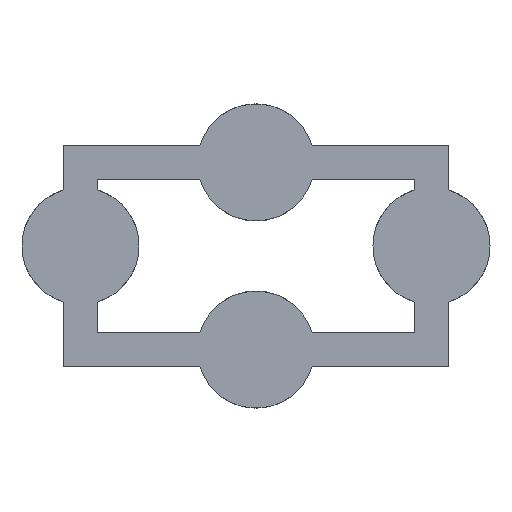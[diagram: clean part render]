
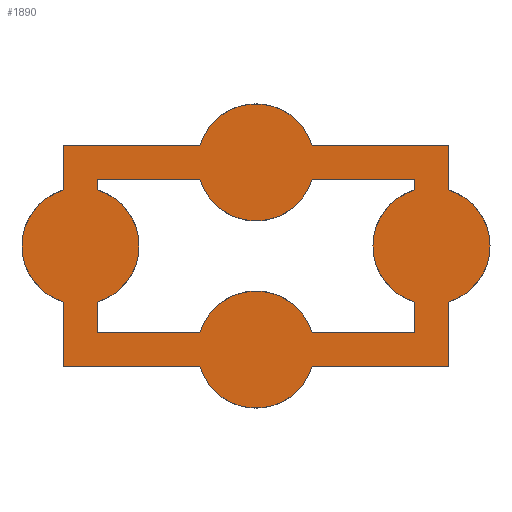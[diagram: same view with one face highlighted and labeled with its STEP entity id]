
A CAD part, front view. The second image highlights one B-rep face of the part: STEP entity #1890.
In plain terms, the highlighted planar face has unit normal (0, -1, 0).
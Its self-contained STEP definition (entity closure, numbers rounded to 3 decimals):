
#1=CARTESIAN_POINT('',(10.5,0.,0.));
#2=DIRECTION('',(0.,1.,0.));
#3=DIRECTION('',(-1.,0.,0.));
#4=AXIS2_PLACEMENT_3D('',#1,#2,#3);
#6=DIRECTION('',(0.,0.,1.));
#7=VECTOR('',#6,0.646);
#8=CARTESIAN_POINT('',(9.5,0.,3.354));
#9=LINE('',#8,#7);
#10=DIRECTION('',(-1.,0.,0.));
#11=VECTOR('',#10,6.146);
#12=CARTESIAN_POINT('',(9.5,0.,4.));
#13=LINE('',#12,#11);
#14=CARTESIAN_POINT('',(0.,0.,5.));
#15=DIRECTION('',(0.,1.,0.));
#16=DIRECTION('',(0.958,0.,-0.286));
#17=AXIS2_PLACEMENT_3D('',#14,#15,#16);
#19=DIRECTION('',(-1.,0.,0.));
#20=VECTOR('',#19,6.146);
#21=CARTESIAN_POINT('',(-3.354,0.,4.));
#22=LINE('',#21,#20);
#23=DIRECTION('',(0.,0.,-1.));
#24=VECTOR('',#23,0.646);
#25=CARTESIAN_POINT('',(-9.5,0.,4.));
#26=LINE('',#25,#24);
#27=CARTESIAN_POINT('',(-10.5,0.,0.));
#28=DIRECTION('',(0.,1.,0.));
#29=DIRECTION('',(0.286,0.,0.958));
#30=AXIS2_PLACEMENT_3D('',#27,#28,#29);
#32=CARTESIAN_POINT('',(-10.5,0.,0.));
#33=DIRECTION('',(0.,1.,0.));
#34=DIRECTION('',(1.,0.,0.));
#35=AXIS2_PLACEMENT_3D('',#32,#33,#34);
#37=DIRECTION('',(0.,0.,-1.));
#38=VECTOR('',#37,1.846);
#39=CARTESIAN_POINT('',(-9.5,0.,-3.354));
#40=LINE('',#39,#38);
#41=DIRECTION('',(1.,0.,0.));
#42=VECTOR('',#41,6.146);
#43=CARTESIAN_POINT('',(-9.5,0.,-5.2));
#44=LINE('',#43,#42);
#45=CARTESIAN_POINT('',(0.,0.,-6.2));
#46=DIRECTION('',(0.,1.,0.));
#47=DIRECTION('',(-0.958,0.,0.286));
#48=AXIS2_PLACEMENT_3D('',#45,#46,#47);
#50=DIRECTION('',(1.,0.,0.));
#51=VECTOR('',#50,6.146);
#52=CARTESIAN_POINT('',(3.354,0.,-5.2));
#53=LINE('',#52,#51);
#54=DIRECTION('',(0.,0.,1.));
#55=VECTOR('',#54,1.846);
#56=CARTESIAN_POINT('',(9.5,0.,-5.2));
#57=LINE('',#56,#55);
#58=CARTESIAN_POINT('',(10.5,0.,0.));
#59=DIRECTION('',(0.,1.,0.));
#60=DIRECTION('',(-0.286,0.,-0.958));
#61=AXIS2_PLACEMENT_3D('',#58,#59,#60);
#63=CARTESIAN_POINT('',(0.,0.,5.));
#64=DIRECTION('',(0.,1.,0.));
#65=DIRECTION('',(-0.958,0.,0.286));
#66=AXIS2_PLACEMENT_3D('',#63,#64,#65);
#68=DIRECTION('',(1.,0.,0.));
#69=VECTOR('',#68,8.146);
#70=CARTESIAN_POINT('',(3.354,0.,6.));
#71=LINE('',#70,#69);
#72=DIRECTION('',(0.,0.,-1.));
#73=VECTOR('',#72,2.646);
#74=CARTESIAN_POINT('',(11.5,0.,6.));
#75=LINE('',#74,#73);
#76=CARTESIAN_POINT('',(10.5,0.,0.));
#77=DIRECTION('',(0.,1.,0.));
#78=DIRECTION('',(0.286,0.,0.958));
#79=AXIS2_PLACEMENT_3D('',#76,#77,#78);
#81=CARTESIAN_POINT('',(10.5,0.,0.));
#82=DIRECTION('',(0.,1.,0.));
#83=DIRECTION('',(1.,0.,0.));
#84=AXIS2_PLACEMENT_3D('',#81,#82,#83);
#86=DIRECTION('',(0.,0.,-1.));
#87=VECTOR('',#86,3.846);
#88=CARTESIAN_POINT('',(11.5,0.,-3.354));
#89=LINE('',#88,#87);
#90=DIRECTION('',(-1.,0.,0.));
#91=VECTOR('',#90,8.146);
#92=CARTESIAN_POINT('',(11.5,0.,-7.2));
#93=LINE('',#92,#91);
#94=CARTESIAN_POINT('',(0.,0.,-6.2));
#95=DIRECTION('',(0.,1.,0.));
#96=DIRECTION('',(0.958,0.,-0.286));
#97=AXIS2_PLACEMENT_3D('',#94,#95,#96);
#99=DIRECTION('',(-1.,0.,0.));
#100=VECTOR('',#99,8.146);
#101=CARTESIAN_POINT('',(-3.354,0.,-7.2));
#102=LINE('',#101,#100);
#103=DIRECTION('',(0.,0.,1.));
#104=VECTOR('',#103,3.846);
#105=CARTESIAN_POINT('',(-11.5,0.,-7.2));
#106=LINE('',#105,#104);
#107=CARTESIAN_POINT('',(-10.5,0.,0.));
#108=DIRECTION('',(0.,1.,0.));
#109=DIRECTION('',(-0.286,0.,-0.958));
#110=AXIS2_PLACEMENT_3D('',#107,#108,#109);
#112=CARTESIAN_POINT('',(-10.5,0.,0.));
#113=DIRECTION('',(0.,1.,0.));
#114=DIRECTION('',(-1.,0.,0.));
#115=AXIS2_PLACEMENT_3D('',#112,#113,#114);
#117=DIRECTION('',(0.,0.,1.));
#118=VECTOR('',#117,2.646);
#119=CARTESIAN_POINT('',(-11.5,0.,3.354));
#120=LINE('',#119,#118);
#121=DIRECTION('',(1.,0.,0.));
#122=VECTOR('',#121,8.146);
#123=CARTESIAN_POINT('',(-11.5,0.,6.));
#124=LINE('',#123,#122);
#1413=CARTESIAN_POINT('',(-7.,0.,0.));
#1414=VERTEX_POINT('',#1413);
#1415=CARTESIAN_POINT('',(-14.,0.,0.));
#1416=VERTEX_POINT('',#1415);
#1417=CARTESIAN_POINT('',(14.,0.,0.));
#1418=VERTEX_POINT('',#1417);
#1419=CARTESIAN_POINT('',(7.,0.,0.));
#1420=VERTEX_POINT('',#1419);
#1437=CARTESIAN_POINT('',(-9.5,0.,-5.2));
#1439=VERTEX_POINT('',#1437);
#1441=CARTESIAN_POINT('',(9.5,0.,-5.2));
#1443=VERTEX_POINT('',#1441);
#1445=CARTESIAN_POINT('',(9.5,0.,4.));
#1447=VERTEX_POINT('',#1445);
#1449=CARTESIAN_POINT('',(-9.5,0.,4.));
#1451=VERTEX_POINT('',#1449);
#1453=CARTESIAN_POINT('',(-11.5,0.,-7.2));
#1455=VERTEX_POINT('',#1453);
#1457=CARTESIAN_POINT('',(-11.5,0.,6.));
#1459=VERTEX_POINT('',#1457);
#1461=CARTESIAN_POINT('',(11.5,0.,6.));
#1463=VERTEX_POINT('',#1461);
#1465=CARTESIAN_POINT('',(11.5,0.,-7.2));
#1467=VERTEX_POINT('',#1465);
#1477=CARTESIAN_POINT('',(3.354,0.,-7.2));
#1478=VERTEX_POINT('',#1477);
#1479=CARTESIAN_POINT('',(-3.354,0.,-7.2));
#1480=VERTEX_POINT('',#1479);
#1485=CARTESIAN_POINT('',(-3.354,0.,-5.2));
#1486=VERTEX_POINT('',#1485);
#1487=CARTESIAN_POINT('',(3.354,0.,-5.2));
#1488=VERTEX_POINT('',#1487);
#1493=CARTESIAN_POINT('',(-9.5,0.,-3.354));
#1494=VERTEX_POINT('',#1493);
#1495=CARTESIAN_POINT('',(-11.5,0.,-3.354));
#1496=VERTEX_POINT('',#1495);
#1501=CARTESIAN_POINT('',(-9.5,0.,3.354));
#1502=VERTEX_POINT('',#1501);
#1503=CARTESIAN_POINT('',(-11.5,0.,3.354));
#1504=VERTEX_POINT('',#1503);
#1513=CARTESIAN_POINT('',(3.354,0.,4.));
#1514=VERTEX_POINT('',#1513);
#1515=CARTESIAN_POINT('',(-3.354,0.,4.));
#1516=VERTEX_POINT('',#1515);
#1521=CARTESIAN_POINT('',(-3.354,0.,6.));
#1522=VERTEX_POINT('',#1521);
#1523=CARTESIAN_POINT('',(3.354,0.,6.));
#1524=VERTEX_POINT('',#1523);
#1529=CARTESIAN_POINT('',(9.5,0.,-3.354));
#1530=VERTEX_POINT('',#1529);
#1531=CARTESIAN_POINT('',(11.5,0.,-3.354));
#1532=VERTEX_POINT('',#1531);
#1537=CARTESIAN_POINT('',(9.5,0.,3.354));
#1538=VERTEX_POINT('',#1537);
#1539=CARTESIAN_POINT('',(11.5,0.,3.354));
#1540=VERTEX_POINT('',#1539);
#1825=CARTESIAN_POINT('',(0.,0.,0.));
#1826=DIRECTION('',(0.,1.,0.));
#1827=DIRECTION('',(1.,0.,0.));
#1828=AXIS2_PLACEMENT_3D('',#1825,#1826,#1827);
#1829=PLANE('',#1828);
#1831=ORIENTED_EDGE('',*,*,#1830,.T.);
#1833=ORIENTED_EDGE('',*,*,#1832,.T.);
#1835=ORIENTED_EDGE('',*,*,#1834,.T.);
#1837=ORIENTED_EDGE('',*,*,#1836,.T.);
#1839=ORIENTED_EDGE('',*,*,#1838,.T.);
#1841=ORIENTED_EDGE('',*,*,#1840,.T.);
#1843=ORIENTED_EDGE('',*,*,#1842,.T.);
#1845=ORIENTED_EDGE('',*,*,#1844,.T.);
#1847=ORIENTED_EDGE('',*,*,#1846,.T.);
#1849=ORIENTED_EDGE('',*,*,#1848,.T.);
#1851=ORIENTED_EDGE('',*,*,#1850,.T.);
#1853=ORIENTED_EDGE('',*,*,#1852,.T.);
#1855=ORIENTED_EDGE('',*,*,#1854,.T.);
#1857=ORIENTED_EDGE('',*,*,#1856,.T.);
#1858=EDGE_LOOP('',(#1831,#1833,#1835,#1837,#1839,#1841,#1843,#1845,#1847,#1849,
#1851,#1853,#1855,#1857));
#1859=FACE_OUTER_BOUND('',#1858,.F.);
#1861=ORIENTED_EDGE('',*,*,#1860,.T.);
#1863=ORIENTED_EDGE('',*,*,#1862,.T.);
#1865=ORIENTED_EDGE('',*,*,#1864,.T.);
#1867=ORIENTED_EDGE('',*,*,#1866,.T.);
#1869=ORIENTED_EDGE('',*,*,#1868,.T.);
#1871=ORIENTED_EDGE('',*,*,#1870,.T.);
#1873=ORIENTED_EDGE('',*,*,#1872,.T.);
#1875=ORIENTED_EDGE('',*,*,#1874,.T.);
#1877=ORIENTED_EDGE('',*,*,#1876,.T.);
#1879=ORIENTED_EDGE('',*,*,#1878,.T.);
#1881=ORIENTED_EDGE('',*,*,#1880,.T.);
#1883=ORIENTED_EDGE('',*,*,#1882,.T.);
#1885=ORIENTED_EDGE('',*,*,#1884,.T.);
#1887=ORIENTED_EDGE('',*,*,#1886,.T.);
#1888=EDGE_LOOP('',(#1861,#1863,#1865,#1867,#1869,#1871,#1873,#1875,#1877,#1879,
#1881,#1883,#1885,#1887));
#1889=FACE_BOUND('',#1888,.F.);
#1890=ADVANCED_FACE('',(#1859,#1889),#1829,.F.);
#5=CIRCLE('',#4,3.5);
#18=CIRCLE('',#17,3.5);
#31=CIRCLE('',#30,3.5);
#36=CIRCLE('',#35,3.5);
#49=CIRCLE('',#48,3.5);
#62=CIRCLE('',#61,3.5);
#67=CIRCLE('',#66,3.5);
#80=CIRCLE('',#79,3.5);
#85=CIRCLE('',#84,3.5);
#98=CIRCLE('',#97,3.5);
#111=CIRCLE('',#110,3.5);
#116=CIRCLE('',#115,3.5);
#1830=EDGE_CURVE('',#1522,#1524,#67,.T.);
#1832=EDGE_CURVE('',#1524,#1463,#71,.T.);
#1834=EDGE_CURVE('',#1463,#1540,#75,.T.);
#1836=EDGE_CURVE('',#1540,#1418,#80,.T.);
#1838=EDGE_CURVE('',#1418,#1532,#85,.T.);
#1840=EDGE_CURVE('',#1532,#1467,#89,.T.);
#1842=EDGE_CURVE('',#1467,#1478,#93,.T.);
#1844=EDGE_CURVE('',#1478,#1480,#98,.T.);
#1846=EDGE_CURVE('',#1480,#1455,#102,.T.);
#1848=EDGE_CURVE('',#1455,#1496,#106,.T.);
#1850=EDGE_CURVE('',#1496,#1416,#111,.T.);
#1852=EDGE_CURVE('',#1416,#1504,#116,.T.);
#1854=EDGE_CURVE('',#1504,#1459,#120,.T.);
#1856=EDGE_CURVE('',#1459,#1522,#124,.T.);
#1860=EDGE_CURVE('',#1420,#1538,#5,.T.);
#1862=EDGE_CURVE('',#1538,#1447,#9,.T.);
#1864=EDGE_CURVE('',#1447,#1514,#13,.T.);
#1866=EDGE_CURVE('',#1514,#1516,#18,.T.);
#1868=EDGE_CURVE('',#1516,#1451,#22,.T.);
#1870=EDGE_CURVE('',#1451,#1502,#26,.T.);
#1872=EDGE_CURVE('',#1502,#1414,#31,.T.);
#1874=EDGE_CURVE('',#1414,#1494,#36,.T.);
#1876=EDGE_CURVE('',#1494,#1439,#40,.T.);
#1878=EDGE_CURVE('',#1439,#1486,#44,.T.);
#1880=EDGE_CURVE('',#1486,#1488,#49,.T.);
#1882=EDGE_CURVE('',#1488,#1443,#53,.T.);
#1884=EDGE_CURVE('',#1443,#1530,#57,.T.);
#1886=EDGE_CURVE('',#1530,#1420,#62,.T.);
